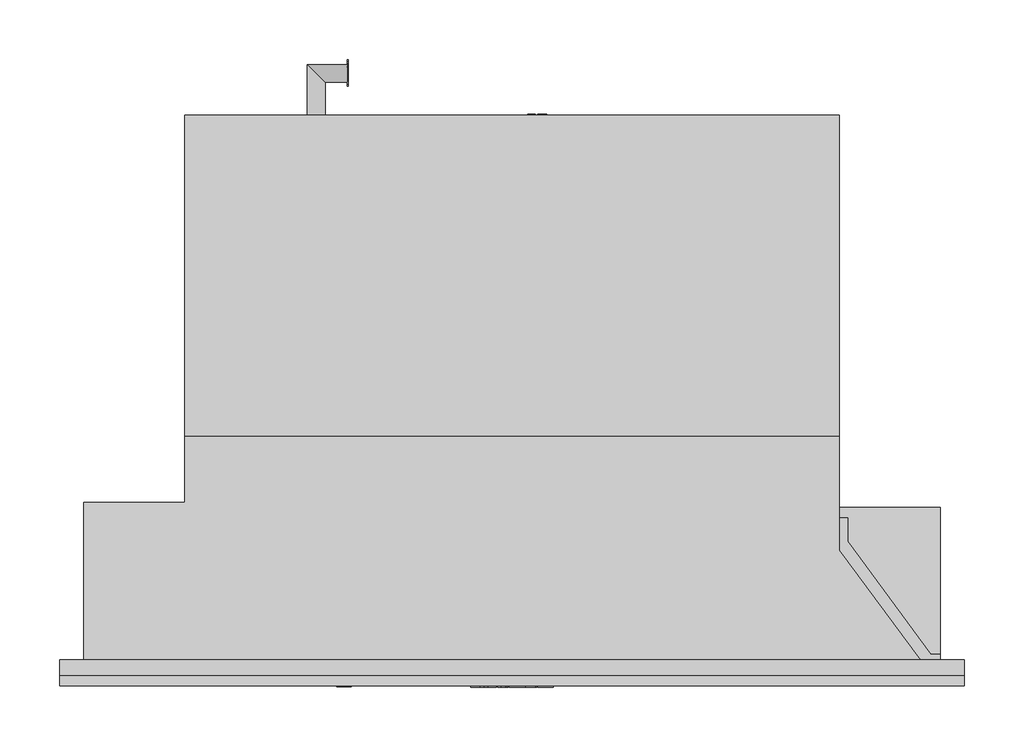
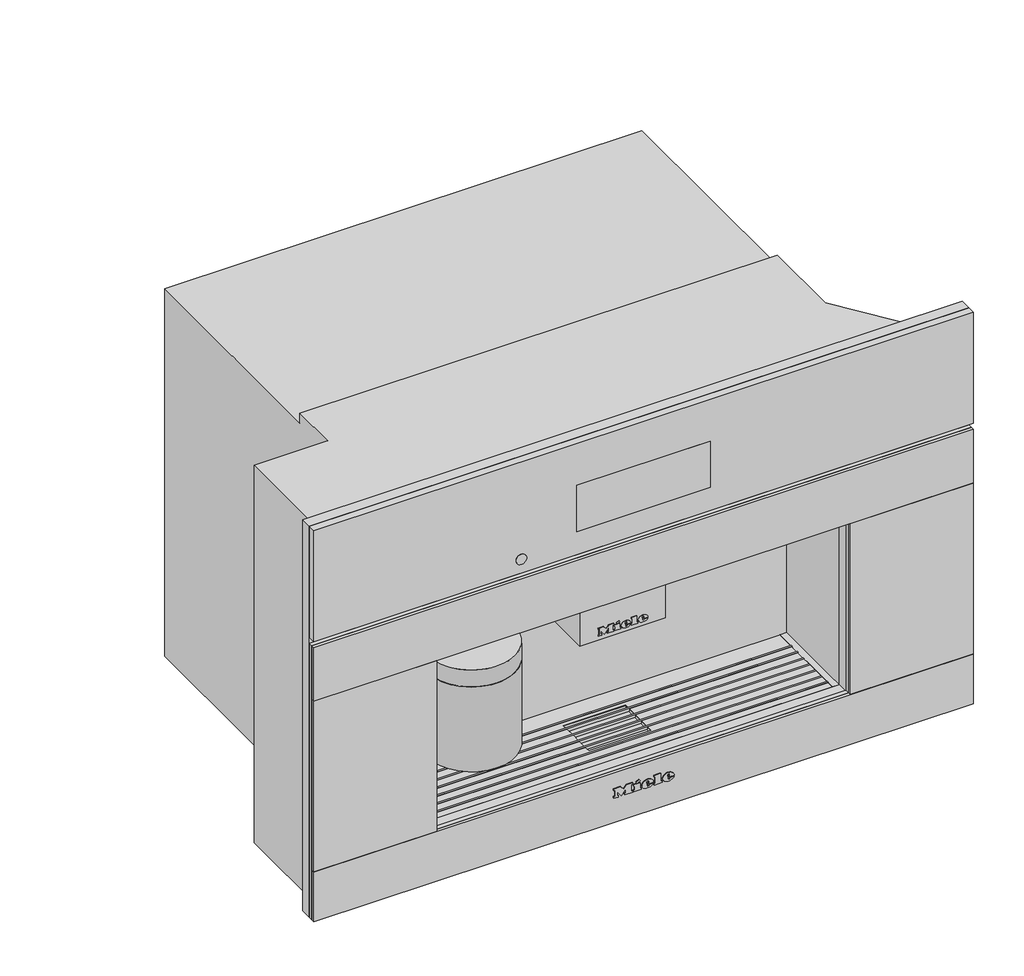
# Not in any storey: 1 proxy.
"""IFC4 building model written with IfcOpenShell, lengths in millimetres."""

from ifc_helpers import new_model, si_unit, origin, place, context, project, spatial, transform, mapped, element, save
from components import specialty_equipment_d32c7e56

model = new_model("IFC4")

# Units and contexts
model_context = context("Model", 3, world=origin())
ifc_project = project(units=[si_unit("LENGTHUNIT", "METRE", prefix="MILLI")], contexts=[model_context])

# Site, building
site = spatial("IfcSite", under=ifc_project)
building = spatial("IfcBuilding", under=site)

# Proxy
placement = place(None, origin())
specialty_equipment_shape = specialty_equipment_d32c7e56(model_context)
element("IfcBuildingElementProxy", 1, Name="12579060_CDN_CVA7875_OBSWMATT : 29787521_CDN_12579060_CVA7875_OBSWMATT", ObjectType="12579060_CDN_CVA7875_OBSWMATT : 29787521_CDN_12579060_CVA7875_OBSWMATT", at=placement, inside=building, context=model_context, shape_type="MappedRepresentation", body=[
    mapped(specialty_equipment_shape, transform((0.0, 0.0, 0.0), x_axis=(1.0, 0.0, 0.0), y_axis=(0.0, 1.0, 0.0), z_axis=(0.0, 0.0, 1.0))),
])

save(model, "model.ifc")
